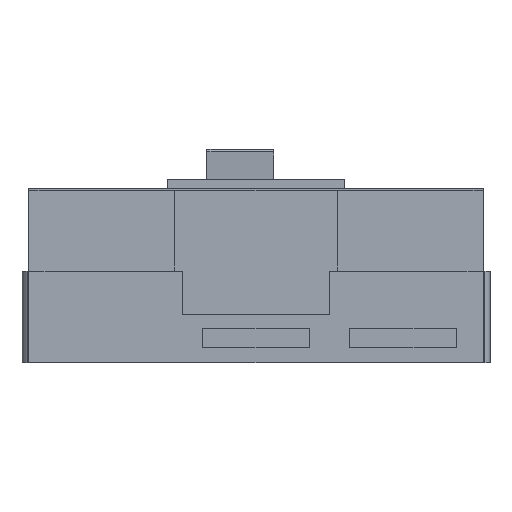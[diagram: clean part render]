
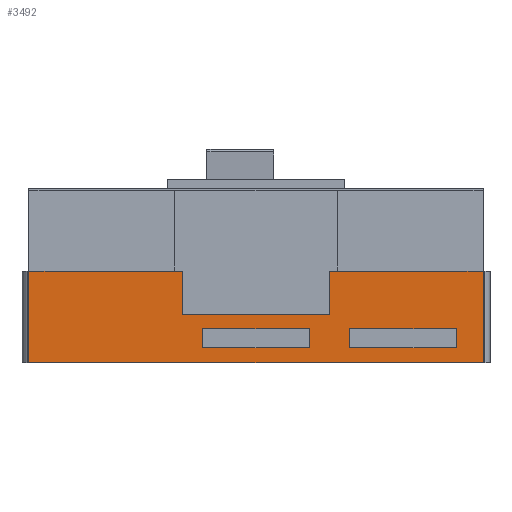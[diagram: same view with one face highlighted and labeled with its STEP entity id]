
A CAD part, front view. The second image highlights one B-rep face of the part: STEP entity #3492.
In plain terms, the highlighted planar face has unit normal (0, -1, 0).
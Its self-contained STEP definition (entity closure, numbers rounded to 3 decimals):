
#48 = VERTEX_POINT ( 'NONE', #244 ) ;
#96 = FACE_BOUND ( 'NONE', #3486, .T. ) ;
#143 = VERTEX_POINT ( 'NONE', #1326 ) ;
#170 = CARTESIAN_POINT ( 'NONE',  ( 425., 0., 0. ) ) ;
#216 = LINE ( 'NONE', #1732, #3770 ) ;
#244 = CARTESIAN_POINT ( 'NONE',  ( 300., 0., 32. ) ) ;
#334 = CARTESIAN_POINT ( 'NONE',  ( 162.5, 0., 14. ) ) ;
#338 = PLANE ( 'NONE',  #3221 ) ;
#345 = DIRECTION ( 'NONE',  ( 1., 0., 0. ) ) ;
#360 = CARTESIAN_POINT ( 'NONE',  ( 0., 0., 0. ) ) ;
#373 = EDGE_CURVE ( 'NONE', #1390, #3812, #2586, .T. ) ;
#430 = VECTOR ( 'NONE', #1140, 1000. ) ;
#461 = ORIENTED_EDGE ( 'NONE', *, *, #3722, .T. ) ;
#533 = VECTOR ( 'NONE', #1259, 1000. ) ;
#598 = CARTESIAN_POINT ( 'NONE',  ( 262.5, 0., 32. ) ) ;
#652 = VECTOR ( 'NONE', #4159, 1000. ) ;
#653 = CARTESIAN_POINT ( 'NONE',  ( 0., 0., 315. ) ) ;
#678 = DIRECTION ( 'NONE',  ( 0., 1., 0. ) ) ;
#692 = CARTESIAN_POINT ( 'NONE',  ( 400., 0., 14. ) ) ;
#815 = VECTOR ( 'NONE', #345, 1000. ) ;
#829 = CARTESIAN_POINT ( 'NONE',  ( 0., 0., 86. ) ) ;
#832 = CARTESIAN_POINT ( 'NONE',  ( 281.3, 0., 86. ) ) ;
#857 = ORIENTED_EDGE ( 'NONE', *, *, #939, .T. ) ;
#871 = VECTOR ( 'NONE', #3751, 1000. ) ;
#897 = EDGE_LOOP ( 'NONE', ( #2621, #2463, #3114, #1980 ) ) ;
#917 = CARTESIAN_POINT ( 'NONE',  ( 400., 0., 32. ) ) ;
#929 = ORIENTED_EDGE ( 'NONE', *, *, #3416, .F. ) ;
#939 = EDGE_CURVE ( 'NONE', #48, #1364, #2473, .T. ) ;
#969 = CARTESIAN_POINT ( 'NONE',  ( 162.5, 0., 14. ) ) ;
#972 = EDGE_CURVE ( 'NONE', #1625, #2228, #4086, .T. ) ;
#1026 = EDGE_CURVE ( 'NONE', #1580, #48, #2162, .T. ) ;
#1075 = EDGE_CURVE ( 'NONE', #1249, #1902, #1775, .T. ) ;
#1139 = EDGE_CURVE ( 'NONE', #3660, #1390, #3307, .T. ) ;
#1140 = DIRECTION ( 'NONE',  ( 0., 0., 1. ) ) ;
#1166 = EDGE_CURVE ( 'NONE', #3493, #3660, #4320, .T. ) ;
#1227 = EDGE_CURVE ( 'NONE', #1249, #3493, #1234, .T. ) ;
#1234 = LINE ( 'NONE', #2131, #3077 ) ;
#1240 = VERTEX_POINT ( 'NONE', #3727 ) ;
#1249 = VERTEX_POINT ( 'NONE', #4434 ) ;
#1259 = DIRECTION ( 'NONE',  ( 1., 0., 0. ) ) ;
#1290 = EDGE_CURVE ( 'NONE', #2598, #1625, #2868, .T. ) ;
#1299 = CARTESIAN_POINT ( 'NONE',  ( 0., 0., 0. ) ) ;
#1320 = VECTOR ( 'NONE', #3675, 1000. ) ;
#1326 = CARTESIAN_POINT ( 'NONE',  ( 262.5, 0., 14. ) ) ;
#1342 = EDGE_CURVE ( 'NONE', #1580, #1240, #3567, .T. ) ;
#1364 = VERTEX_POINT ( 'NONE', #3453 ) ;
#1390 = VERTEX_POINT ( 'NONE', #360 ) ;
#1398 = CARTESIAN_POINT ( 'NONE',  ( 425., 0., 86. ) ) ;
#1580 = VERTEX_POINT ( 'NONE', #4399 ) ;
#1581 = FACE_BOUND ( 'NONE', #897, .T. ) ;
#1589 = ORIENTED_EDGE ( 'NONE', *, *, #1139, .T. ) ;
#1625 = VERTEX_POINT ( 'NONE', #4415 ) ;
#1634 = VECTOR ( 'NONE', #3957, 1000. ) ;
#1652 = EDGE_CURVE ( 'NONE', #1240, #1364, #4099, .T. ) ;
#1671 = CARTESIAN_POINT ( 'NONE',  ( 400., 0., 14. ) ) ;
#1725 = CARTESIAN_POINT ( 'NONE',  ( 0., 0., 315. ) ) ;
#1732 = CARTESIAN_POINT ( 'NONE',  ( 262.5, 0., 14. ) ) ;
#1739 = DIRECTION ( 'NONE',  ( -1., 0., 0. ) ) ;
#1775 = LINE ( 'NONE', #2715, #871 ) ;
#1853 = ORIENTED_EDGE ( 'NONE', *, *, #373, .T. ) ;
#1902 = VERTEX_POINT ( 'NONE', #3547 ) ;
#1980 = ORIENTED_EDGE ( 'NONE', *, *, #972, .T. ) ;
#2003 = CARTESIAN_POINT ( 'NONE',  ( 281.3, 0., 45. ) ) ;
#2038 = DIRECTION ( 'NONE',  ( 0., 0., 1. ) ) ;
#2067 = DIRECTION ( 'NONE',  ( 0., 0., -1. ) ) ;
#2103 = DIRECTION ( 'NONE',  ( 1., 0., 0. ) ) ;
#2131 = CARTESIAN_POINT ( 'NONE',  ( 143.7, 0., 45. ) ) ;
#2162 = LINE ( 'NONE', #2698, #3869 ) ;
#2199 = CARTESIAN_POINT ( 'NONE',  ( 262.5, 0., 14. ) ) ;
#2228 = VERTEX_POINT ( 'NONE', #2978 ) ;
#2293 = VECTOR ( 'NONE', #1739, 1000. ) ;
#2306 = ORIENTED_EDGE ( 'NONE', *, *, #1652, .F. ) ;
#2328 = EDGE_CURVE ( 'NONE', #2598, #143, #216, .T. ) ;
#2367 = DIRECTION ( 'NONE',  ( 0., 0., 1. ) ) ;
#2463 = ORIENTED_EDGE ( 'NONE', *, *, #2328, .F. ) ;
#2473 = LINE ( 'NONE', #917, #533 ) ;
#2530 = FACE_OUTER_BOUND ( 'NONE', #2939, .T. ) ;
#2586 = LINE ( 'NONE', #1299, #4406 ) ;
#2598 = VERTEX_POINT ( 'NONE', #969 ) ;
#2621 = ORIENTED_EDGE ( 'NONE', *, *, #2871, .F. ) ;
#2698 = CARTESIAN_POINT ( 'NONE',  ( 300., 0., 14. ) ) ;
#2715 = CARTESIAN_POINT ( 'NONE',  ( 143.7, 0., 45. ) ) ;
#2750 = VECTOR ( 'NONE', #3088, 1000. ) ;
#2868 = LINE ( 'NONE', #334, #2750 ) ;
#2871 = EDGE_CURVE ( 'NONE', #143, #2228, #3293, .T. ) ;
#2939 = EDGE_LOOP ( 'NONE', ( #3043, #4113, #3281, #1589, #1853, #4446, #461, #929 ) ) ;
#2978 = CARTESIAN_POINT ( 'NONE',  ( 262.5, 0., 32. ) ) ;
#3043 = ORIENTED_EDGE ( 'NONE', *, *, #1075, .F. ) ;
#3056 = CARTESIAN_POINT ( 'NONE',  ( 143.7, 0., 86. ) ) ;
#3077 = VECTOR ( 'NONE', #3861, 1000. ) ;
#3088 = DIRECTION ( 'NONE',  ( 0., 0., 1. ) ) ;
#3093 = DIRECTION ( 'NONE',  ( 0., 0., 1. ) ) ;
#3114 = ORIENTED_EDGE ( 'NONE', *, *, #1290, .T. ) ;
#3221 = AXIS2_PLACEMENT_3D ( 'NONE', #653, #678, #3093 ) ;
#3281 = ORIENTED_EDGE ( 'NONE', *, *, #1166, .T. ) ;
#3293 = LINE ( 'NONE', #2199, #430 ) ;
#3301 = VECTOR ( 'NONE', #2038, 1000. ) ;
#3307 = LINE ( 'NONE', #1725, #652 ) ;
#3325 = VECTOR ( 'NONE', #2067, 1000. ) ;
#3357 = ORIENTED_EDGE ( 'NONE', *, *, #1342, .F. ) ;
#3379 = DIRECTION ( 'NONE',  ( 0., 0., 1. ) ) ;
#3416 = EDGE_CURVE ( 'NONE', #1902, #4418, #3654, .T. ) ;
#3453 = CARTESIAN_POINT ( 'NONE',  ( 400., 0., 32. ) ) ;
#3479 = CARTESIAN_POINT ( 'NONE',  ( 425., 0., 86. ) ) ;
#3486 = EDGE_LOOP ( 'NONE', ( #2306, #3357, #4228, #857 ) ) ;
#3492 = ADVANCED_FACE ( 'NONE', ( #2530, #1581, #96 ), #338, .F. ) ;
#3493 = VERTEX_POINT ( 'NONE', #3056 ) ;
#3519 = VERTEX_POINT ( 'NONE', #1398 ) ;
#3547 = CARTESIAN_POINT ( 'NONE',  ( 281.3, 0., 45. ) ) ;
#3567 = LINE ( 'NONE', #692, #815 ) ;
#3607 = CARTESIAN_POINT ( 'NONE',  ( 425., 0., 86. ) ) ;
#3650 = LINE ( 'NONE', #3773, #3325 ) ;
#3654 = LINE ( 'NONE', #2003, #3754 ) ;
#3660 = VERTEX_POINT ( 'NONE', #829 ) ;
#3675 = DIRECTION ( 'NONE',  ( 1., 0., 0. ) ) ;
#3722 = EDGE_CURVE ( 'NONE', #3519, #4418, #3927, .T. ) ;
#3725 = DIRECTION ( 'NONE',  ( 1., 0., 0. ) ) ;
#3727 = CARTESIAN_POINT ( 'NONE',  ( 400., 0., 14. ) ) ;
#3751 = DIRECTION ( 'NONE',  ( 1., 0., 0. ) ) ;
#3754 = VECTOR ( 'NONE', #3379, 1000. ) ;
#3770 = VECTOR ( 'NONE', #2103, 1000. ) ;
#3773 = CARTESIAN_POINT ( 'NONE',  ( 425., 0., 315. ) ) ;
#3812 = VERTEX_POINT ( 'NONE', #170 ) ;
#3861 = DIRECTION ( 'NONE',  ( 0., 0., 1. ) ) ;
#3869 = VECTOR ( 'NONE', #2367, 1000. ) ;
#3927 = LINE ( 'NONE', #3607, #1634 ) ;
#3957 = DIRECTION ( 'NONE',  ( -1., 0., 0. ) ) ;
#4048 = EDGE_CURVE ( 'NONE', #3519, #3812, #3650, .T. ) ;
#4086 = LINE ( 'NONE', #598, #1320 ) ;
#4099 = LINE ( 'NONE', #1671, #3301 ) ;
#4113 = ORIENTED_EDGE ( 'NONE', *, *, #1227, .T. ) ;
#4159 = DIRECTION ( 'NONE',  ( 0., 0., -1. ) ) ;
#4228 = ORIENTED_EDGE ( 'NONE', *, *, #1026, .T. ) ;
#4320 = LINE ( 'NONE', #3479, #2293 ) ;
#4399 = CARTESIAN_POINT ( 'NONE',  ( 300., 0., 14. ) ) ;
#4406 = VECTOR ( 'NONE', #3725, 1000. ) ;
#4415 = CARTESIAN_POINT ( 'NONE',  ( 162.5, 0., 32. ) ) ;
#4418 = VERTEX_POINT ( 'NONE', #832 ) ;
#4434 = CARTESIAN_POINT ( 'NONE',  ( 143.7, 0., 45. ) ) ;
#4446 = ORIENTED_EDGE ( 'NONE', *, *, #4048, .F. ) ;
